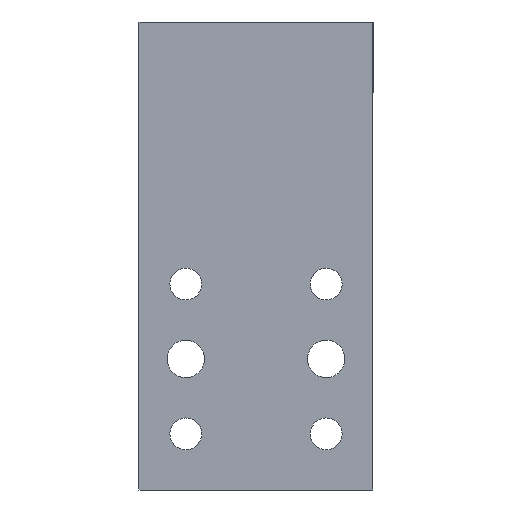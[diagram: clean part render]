
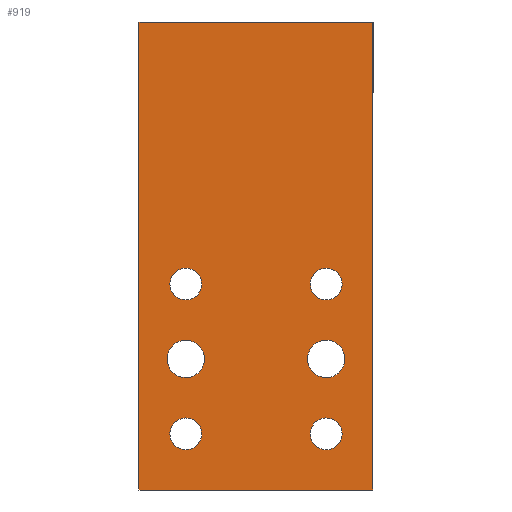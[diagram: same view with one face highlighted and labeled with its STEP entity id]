
A CAD part, front view. The second image highlights one B-rep face of the part: STEP entity #919.
In plain terms, the highlighted planar face has unit normal (0, -1, 0).
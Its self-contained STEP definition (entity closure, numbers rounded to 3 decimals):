
#269=CARTESIAN_POINT('Vertex',(-25.,-40.,0.)) ;
#272=CARTESIAN_POINT('Line Origine',(0.,-40.,0.)) ;
#276=CARTESIAN_POINT('Vertex',(25.,-40.,0.)) ;
#514=CARTESIAN_POINT('Line Origine',(25.,-40.,-50.)) ;
#518=CARTESIAN_POINT('Vertex',(25.,-40.,-100.)) ;
#595=CARTESIAN_POINT('Vertex',(-25.,-40.,-100.)) ;
#598=CARTESIAN_POINT('Line Origine',(-25.,-40.,-50.)) ;
#795=CARTESIAN_POINT('Axis2P3D Location',(0.,-40.,0.)) ;
#800=CARTESIAN_POINT('Line Origine',(0.,-40.,-100.)) ;
#811=CARTESIAN_POINT('Axis2P3D Location',(-15.,-40.,-88.)) ;
#815=CARTESIAN_POINT('Vertex',(-17.984,-40.,-86.37)) ;
#817=CARTESIAN_POINT('Vertex',(-12.016,-40.,-89.63)) ;
#820=CARTESIAN_POINT('Axis2P3D Location',(-15.,-40.,-88.)) ;
#829=CARTESIAN_POINT('Axis2P3D Location',(15.,-40.,-72.)) ;
#833=CARTESIAN_POINT('Vertex',(18.51,-40.,-73.918)) ;
#835=CARTESIAN_POINT('Vertex',(11.49,-40.,-70.082)) ;
#838=CARTESIAN_POINT('Axis2P3D Location',(15.,-40.,-72.)) ;
#847=CARTESIAN_POINT('Axis2P3D Location',(-15.,-40.,-72.)) ;
#851=CARTESIAN_POINT('Vertex',(-18.51,-40.,-70.082)) ;
#853=CARTESIAN_POINT('Vertex',(-11.49,-40.,-73.918)) ;
#856=CARTESIAN_POINT('Axis2P3D Location',(-15.,-40.,-72.)) ;
#865=CARTESIAN_POINT('Axis2P3D Location',(15.,-40.,-88.)) ;
#869=CARTESIAN_POINT('Vertex',(17.984,-40.,-89.63)) ;
#871=CARTESIAN_POINT('Vertex',(12.016,-40.,-86.37)) ;
#874=CARTESIAN_POINT('Axis2P3D Location',(15.,-40.,-88.)) ;
#883=CARTESIAN_POINT('Axis2P3D Location',(-15.,-40.,-56.)) ;
#887=CARTESIAN_POINT('Vertex',(-12.016,-40.,-57.63)) ;
#889=CARTESIAN_POINT('Vertex',(-17.984,-40.,-54.37)) ;
#892=CARTESIAN_POINT('Axis2P3D Location',(-15.,-40.,-56.)) ;
#901=CARTESIAN_POINT('Axis2P3D Location',(15.,-40.,-56.)) ;
#905=CARTESIAN_POINT('Vertex',(17.984,-40.,-57.63)) ;
#907=CARTESIAN_POINT('Vertex',(12.016,-40.,-54.37)) ;
#910=CARTESIAN_POINT('Axis2P3D Location',(15.,-40.,-56.)) ;
#273=DIRECTION('Vector Direction',(1.,0.,0.)) ;
#515=DIRECTION('Vector Direction',(0.,0.,-1.)) ;
#599=DIRECTION('Vector Direction',(0.,0.,-1.)) ;
#796=DIRECTION('Axis2P3D Direction',(0.,-1.,0.)) ;
#797=DIRECTION('Axis2P3D XDirection',(0.,0.,-1.)) ;
#801=DIRECTION('Vector Direction',(1.,0.,0.)) ;
#812=DIRECTION('Axis2P3D Direction',(0.,-1.,0.)) ;
#821=DIRECTION('Axis2P3D Direction',(0.,-1.,0.)) ;
#830=DIRECTION('Axis2P3D Direction',(0.,-1.,0.)) ;
#839=DIRECTION('Axis2P3D Direction',(0.,-1.,0.)) ;
#848=DIRECTION('Axis2P3D Direction',(0.,-1.,0.)) ;
#857=DIRECTION('Axis2P3D Direction',(0.,-1.,0.)) ;
#866=DIRECTION('Axis2P3D Direction',(0.,-1.,0.)) ;
#875=DIRECTION('Axis2P3D Direction',(0.,-1.,0.)) ;
#884=DIRECTION('Axis2P3D Direction',(0.,-1.,0.)) ;
#893=DIRECTION('Axis2P3D Direction',(0.,-1.,0.)) ;
#902=DIRECTION('Axis2P3D Direction',(0.,-1.,0.)) ;
#911=DIRECTION('Axis2P3D Direction',(0.,-1.,0.)) ;
#798=AXIS2_PLACEMENT_3D('Plane Axis2P3D',#795,#796,#797) ;
#813=AXIS2_PLACEMENT_3D('Circle Axis2P3D',#811,#812,$) ;
#822=AXIS2_PLACEMENT_3D('Circle Axis2P3D',#820,#821,$) ;
#831=AXIS2_PLACEMENT_3D('Circle Axis2P3D',#829,#830,$) ;
#840=AXIS2_PLACEMENT_3D('Circle Axis2P3D',#838,#839,$) ;
#849=AXIS2_PLACEMENT_3D('Circle Axis2P3D',#847,#848,$) ;
#858=AXIS2_PLACEMENT_3D('Circle Axis2P3D',#856,#857,$) ;
#867=AXIS2_PLACEMENT_3D('Circle Axis2P3D',#865,#866,$) ;
#876=AXIS2_PLACEMENT_3D('Circle Axis2P3D',#874,#875,$) ;
#885=AXIS2_PLACEMENT_3D('Circle Axis2P3D',#883,#884,$) ;
#894=AXIS2_PLACEMENT_3D('Circle Axis2P3D',#892,#893,$) ;
#903=AXIS2_PLACEMENT_3D('Circle Axis2P3D',#901,#902,$) ;
#912=AXIS2_PLACEMENT_3D('Circle Axis2P3D',#910,#911,$) ;
#806=ORIENTED_EDGE('',*,*,#278,.F.) ;
#807=ORIENTED_EDGE('',*,*,#602,.T.) ;
#808=ORIENTED_EDGE('',*,*,#804,.T.) ;
#809=ORIENTED_EDGE('',*,*,#520,.F.) ;
#826=ORIENTED_EDGE('',*,*,#819,.F.) ;
#827=ORIENTED_EDGE('',*,*,#824,.F.) ;
#844=ORIENTED_EDGE('',*,*,#837,.F.) ;
#845=ORIENTED_EDGE('',*,*,#842,.F.) ;
#862=ORIENTED_EDGE('',*,*,#855,.F.) ;
#863=ORIENTED_EDGE('',*,*,#860,.F.) ;
#880=ORIENTED_EDGE('',*,*,#873,.F.) ;
#881=ORIENTED_EDGE('',*,*,#878,.F.) ;
#898=ORIENTED_EDGE('',*,*,#891,.F.) ;
#899=ORIENTED_EDGE('',*,*,#896,.F.) ;
#916=ORIENTED_EDGE('',*,*,#909,.F.) ;
#917=ORIENTED_EDGE('',*,*,#914,.F.) ;
#828=FACE_BOUND('',#825,.T.) ;
#846=FACE_BOUND('',#843,.T.) ;
#864=FACE_BOUND('',#861,.T.) ;
#882=FACE_BOUND('',#879,.T.) ;
#900=FACE_BOUND('',#897,.T.) ;
#918=FACE_BOUND('',#915,.T.) ;
#274=VECTOR('Line Direction',#273,1.) ;
#516=VECTOR('Line Direction',#515,1.) ;
#600=VECTOR('Line Direction',#599,1.) ;
#802=VECTOR('Line Direction',#801,1.) ;
#919=ADVANCED_FACE('\X2\96F64EF651E04F554F53\X0\',(#810,#828,#846,#864,#882,#900,#918),#799,.T.) ;
#814=CIRCLE('generated circle',#813,3.4) ;
#823=CIRCLE('generated circle',#822,3.4) ;
#832=CIRCLE('generated circle',#831,4.) ;
#841=CIRCLE('generated circle',#840,4.) ;
#850=CIRCLE('generated circle',#849,4.) ;
#859=CIRCLE('generated circle',#858,4.) ;
#868=CIRCLE('generated circle',#867,3.4) ;
#877=CIRCLE('generated circle',#876,3.4) ;
#886=CIRCLE('generated circle',#885,3.4) ;
#895=CIRCLE('generated circle',#894,3.4) ;
#904=CIRCLE('generated circle',#903,3.4) ;
#913=CIRCLE('generated circle',#912,3.4) ;
#278=EDGE_CURVE('',#270,#277,#275,.T.) ;
#520=EDGE_CURVE('',#277,#519,#517,.T.) ;
#602=EDGE_CURVE('',#270,#596,#601,.T.) ;
#804=EDGE_CURVE('',#596,#519,#803,.T.) ;
#819=EDGE_CURVE('',#816,#818,#814,.T.) ;
#824=EDGE_CURVE('',#818,#816,#823,.T.) ;
#837=EDGE_CURVE('',#834,#836,#832,.T.) ;
#842=EDGE_CURVE('',#836,#834,#841,.T.) ;
#855=EDGE_CURVE('',#852,#854,#850,.T.) ;
#860=EDGE_CURVE('',#854,#852,#859,.T.) ;
#873=EDGE_CURVE('',#870,#872,#868,.T.) ;
#878=EDGE_CURVE('',#872,#870,#877,.T.) ;
#891=EDGE_CURVE('',#888,#890,#886,.T.) ;
#896=EDGE_CURVE('',#890,#888,#895,.T.) ;
#909=EDGE_CURVE('',#906,#908,#904,.T.) ;
#914=EDGE_CURVE('',#908,#906,#913,.T.) ;
#805=EDGE_LOOP('',(#806,#807,#808,#809)) ;
#825=EDGE_LOOP('',(#826,#827)) ;
#843=EDGE_LOOP('',(#844,#845)) ;
#861=EDGE_LOOP('',(#862,#863)) ;
#879=EDGE_LOOP('',(#880,#881)) ;
#897=EDGE_LOOP('',(#898,#899)) ;
#915=EDGE_LOOP('',(#916,#917)) ;
#810=FACE_OUTER_BOUND('',#805,.T.) ;
#275=LINE('Line',#272,#274) ;
#517=LINE('Line',#514,#516) ;
#601=LINE('Line',#598,#600) ;
#803=LINE('Line',#800,#802) ;
#799=PLANE('',#798) ;
#270=VERTEX_POINT('',#269) ;
#277=VERTEX_POINT('',#276) ;
#519=VERTEX_POINT('',#518) ;
#596=VERTEX_POINT('',#595) ;
#816=VERTEX_POINT('',#815) ;
#818=VERTEX_POINT('',#817) ;
#834=VERTEX_POINT('',#833) ;
#836=VERTEX_POINT('',#835) ;
#852=VERTEX_POINT('',#851) ;
#854=VERTEX_POINT('',#853) ;
#870=VERTEX_POINT('',#869) ;
#872=VERTEX_POINT('',#871) ;
#888=VERTEX_POINT('',#887) ;
#890=VERTEX_POINT('',#889) ;
#906=VERTEX_POINT('',#905) ;
#908=VERTEX_POINT('',#907) ;
